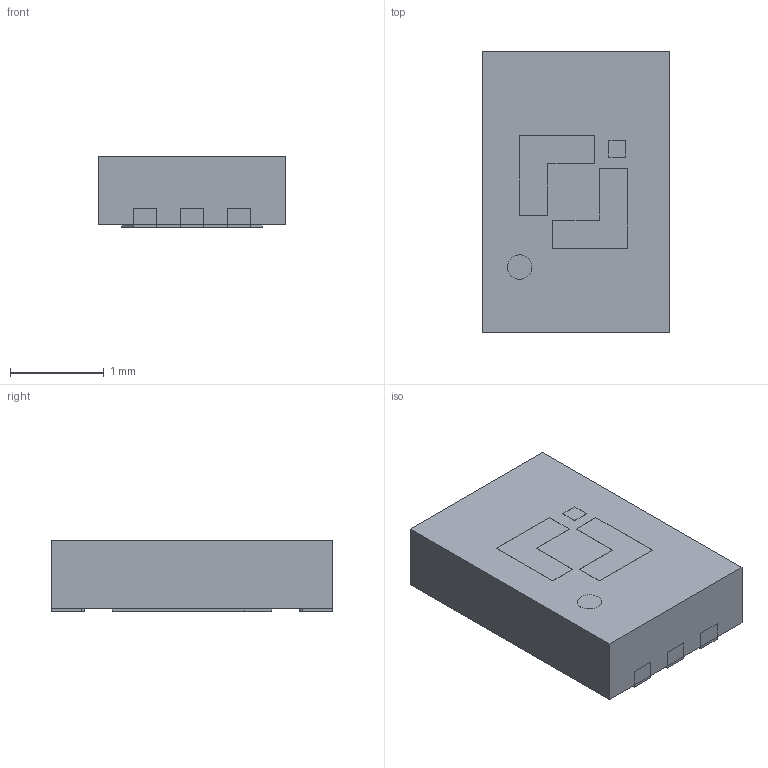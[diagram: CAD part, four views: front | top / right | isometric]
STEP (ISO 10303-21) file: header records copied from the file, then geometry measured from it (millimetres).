
FILE_DESCRIPTION(('HOOPS Exchange Step'),'2;1');
FILE_NAME('C:\Users\18121\AppData\Local\Packages\Shapr3D.Shapr3D_dvv5p1vgwv6mp\TempState\export\temp_export','2025-12-05T10:41:57+08:00',('18121'),('Shapr3D Limited'),'HOOPS Exchange 2025.7','Shapr3D','Authorized');
FILE_SCHEMA( ('AP242_MANAGED_MODEL_BASED_3D_ENGINEERING_MIM_LF {1 0 10303 442 1 1 4}') );
Length unit declared in the file: millimetre
Products named in the file (3): 直线图案 02; 直线图案 01; root
Assembly tree (2 placements, depth 2):
  root
    直线图案 02
    直线图案 01
Bounding box: 2 x 3 x 0.75 mm (x, y, z)
Volume: 4.5 mm3; surface area: 21.9 mm2
Topology: 7 solids, 7 shells, 81 faces, 188 edges, 126 vertices
Faces by surface type: plane 68, cylinder 13
Full cylindrical faces by diameter (mm): 0.26 x1
Entity records: 2395 total; most frequent: CARTESIAN_POINT 401, DIRECTION 390, ORIENTED_EDGE 376, EDGE_CURVE 188, VECTOR 160, LINE 160, VERTEX_POINT 126, AXIS2_PLACEMENT_3D 115
